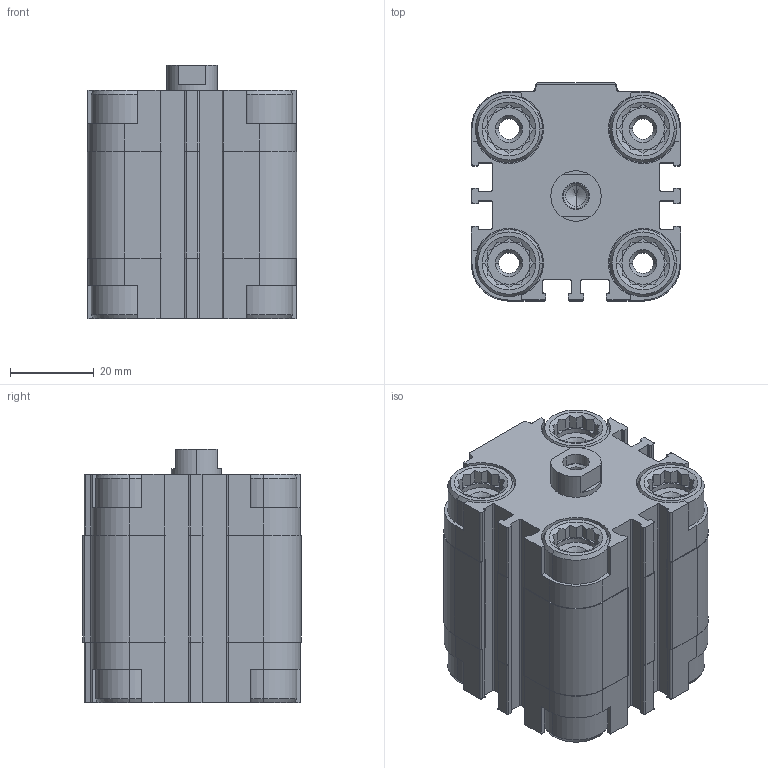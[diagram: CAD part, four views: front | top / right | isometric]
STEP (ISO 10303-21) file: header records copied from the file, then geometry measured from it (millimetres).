
FILE_DESCRIPTION (( 'STEP AP203' ), '1' );
FILE_NAME ('CDVU32-10F.STEP', '2020-03-30T14:57:10', ( '' ), ( '' ), 'SwSTEP 2.0', 'SolidWorks 2019', '' );
FILE_SCHEMA (( 'CONFIG_CONTROL_DESIGN' ));
Length unit declared in the file: millimetre
Products named in the file (1): CDVU32-10F
Bounding box: 50 x 52 x 60.5 mm (x, y, z)
Volume: 104216.2 mm3; surface area: 35487 mm2
Topology: 2 solids, 2 shells, 709 faces, 1894 edges, 1223 vertices
Faces by surface type: plane 417, cylinder 230, cone 62
Entity records: 22229 total; most frequent: CARTESIAN_POINT 4397, ORIENTED_EDGE 3776, DIRECTION 3636, EDGE_CURVE 1888, AXIS2_PLACEMENT_3D 1230, VERTEX_POINT 1223, LINE 1176, VECTOR 1176
